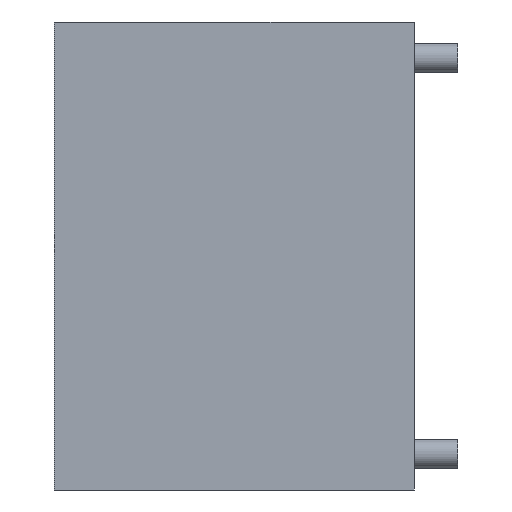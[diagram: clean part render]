
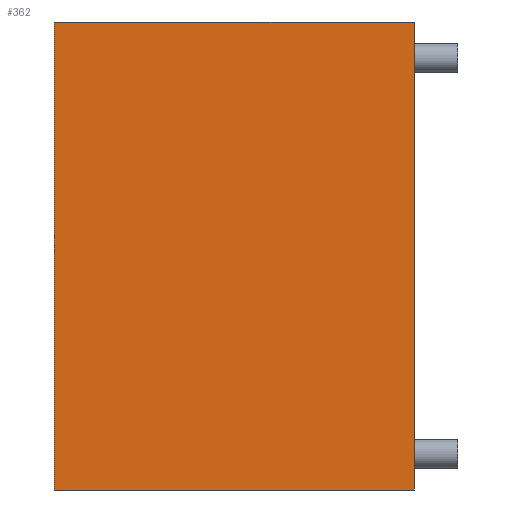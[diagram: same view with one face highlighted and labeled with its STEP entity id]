
A CAD part, front view. The second image highlights one B-rep face of the part: STEP entity #362.
In plain terms, the highlighted planar face has unit normal (0, -1, 0).
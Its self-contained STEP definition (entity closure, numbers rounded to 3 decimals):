
#43=LINE('',#578,#79);
#46=LINE('',#583,#82);
#48=LINE('',#587,#84);
#50=LINE('',#590,#86);
#79=VECTOR('',#477,10.);
#82=VECTOR('',#482,10.);
#84=VECTOR('',#486,10.);
#86=VECTOR('',#490,10.);
#104=PLANE('',#394);
#134=FACE_OUTER_BOUND('',#164,.T.);
#164=EDGE_LOOP('',(#333,#334,#335,#336));
#201=VERTEX_POINT('',#576);
#202=VERTEX_POINT('',#577);
#203=VERTEX_POINT('',#582);
#204=VERTEX_POINT('',#586);
#241=EDGE_CURVE('',#201,#202,#43,.T.);
#244=EDGE_CURVE('',#202,#203,#46,.T.);
#246=EDGE_CURVE('',#203,#204,#48,.T.);
#248=EDGE_CURVE('',#204,#201,#50,.T.);
#333=ORIENTED_EDGE('',*,*,#248,.T.);
#334=ORIENTED_EDGE('',*,*,#241,.T.);
#335=ORIENTED_EDGE('',*,*,#244,.T.);
#336=ORIENTED_EDGE('',*,*,#246,.T.);
#362=ADVANCED_FACE('',(#134),#104,.F.);
#394=AXIS2_PLACEMENT_3D('',#591,#491,#492);
#477=DIRECTION('',(0.,0.,-1.));
#482=DIRECTION('',(1.,0.,0.));
#486=DIRECTION('',(0.,0.,1.));
#490=DIRECTION('',(-1.,0.,0.));
#491=DIRECTION('center_axis',(0.,1.,0.));
#492=DIRECTION('ref_axis',(0.,0.,1.));
#576=CARTESIAN_POINT('',(-100.,0.,65.));
#577=CARTESIAN_POINT('',(-100.,0.,-65.));
#578=CARTESIAN_POINT('',(-100.,0.,65.));
#582=CARTESIAN_POINT('',(0.,0.,-65.));
#583=CARTESIAN_POINT('',(-100.,0.,-65.));
#586=CARTESIAN_POINT('',(0.,0.,65.));
#587=CARTESIAN_POINT('',(0.,0.,-65.));
#590=CARTESIAN_POINT('',(0.,0.,65.));
#591=CARTESIAN_POINT('Origin',(-50.,0.,0.));
